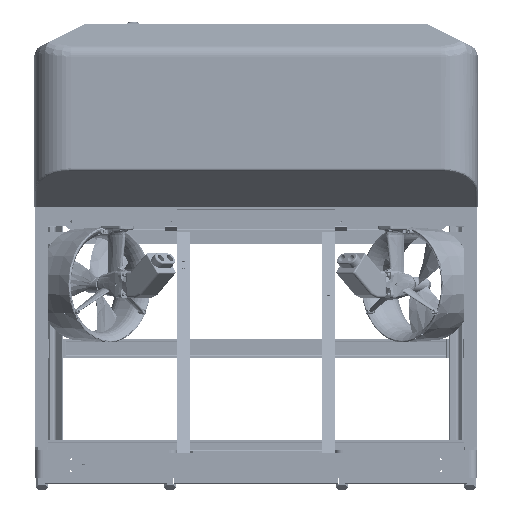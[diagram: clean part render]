
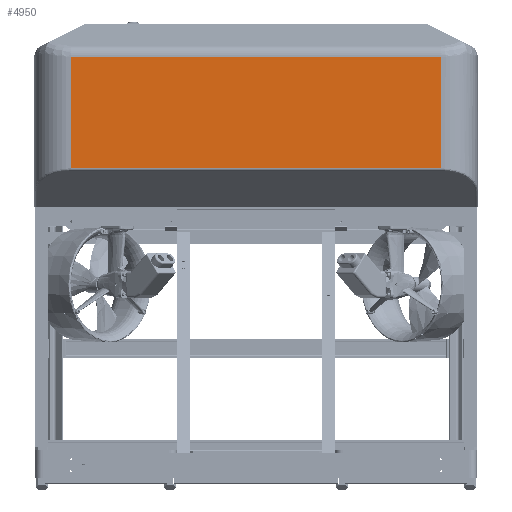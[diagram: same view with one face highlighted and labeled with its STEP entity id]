
A CAD part, left-side view. The second image highlights one B-rep face of the part: STEP entity #4950.
In plain terms, the highlighted planar face has unit normal (-1, 0, 0).
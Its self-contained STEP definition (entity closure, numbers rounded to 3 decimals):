
#4396=CARTESIAN_POINT('',(0.,150.,155.662));
#4397=VERTEX_POINT('',#4396);
#4405=CARTESIAN_POINT('',(0.,1650.0,155.662));
#4406=VERTEX_POINT('',#4405);
#4407=CARTESIAN_POINT('',(0.,150.,155.662));
#4408=DIRECTION('',(0.0,1.0,0.0));
#4409=VECTOR('',#4408,1500.0);
#4410=LINE('',#4407,#4409);
#4411=EDGE_CURVE('',#4397,#4406,#4410,.T.);
#4899=CARTESIAN_POINT('',(0.,1650.0,609.098));
#4900=VERTEX_POINT('',#4899);
#4901=CARTESIAN_POINT('',(0.,1650.0,155.662));
#4902=DIRECTION('',(0.0,0.0,1.0));
#4903=VECTOR('',#4902,453.436);
#4904=LINE('',#4901,#4903);
#4905=EDGE_CURVE('',#4406,#4900,#4904,.T.);
#4927=CARTESIAN_POINT('',(0.0,0.0,0.0));
#4928=DIRECTION('',(-1.0,0.0,0.0));
#4929=DIRECTION('',(0.0,0.0,1.0));
#4930=AXIS2_PLACEMENT_3D('',#4927,#4928,#4929);
#4931=PLANE('',#4930);
#4932=ORIENTED_EDGE('',*,*,#4411,.F.);
#4933=CARTESIAN_POINT('',(0.,150.,609.098));
#4934=VERTEX_POINT('',#4933);
#4935=CARTESIAN_POINT('',(0.,150.,609.098));
#4936=DIRECTION('',(0.0,0.0,-1.0));
#4937=VECTOR('',#4936,453.436);
#4938=LINE('',#4935,#4937);
#4939=EDGE_CURVE('',#4934,#4397,#4938,.T.);
#4940=ORIENTED_EDGE('',*,*,#4939,.F.);
#4941=CARTESIAN_POINT('',(0.,1650.0,609.098));
#4942=DIRECTION('',(0.0,-1.0,0.0));
#4943=VECTOR('',#4942,1500.0);
#4944=LINE('',#4941,#4943);
#4945=EDGE_CURVE('',#4900,#4934,#4944,.T.);
#4946=ORIENTED_EDGE('',*,*,#4945,.F.);
#4947=ORIENTED_EDGE('',*,*,#4905,.F.);
#4948=EDGE_LOOP('',(#4932,#4940,#4946,#4947));
#4949=FACE_OUTER_BOUND('',#4948,.T.);
#4950=ADVANCED_FACE('',(#4949),#4931,.T.);
